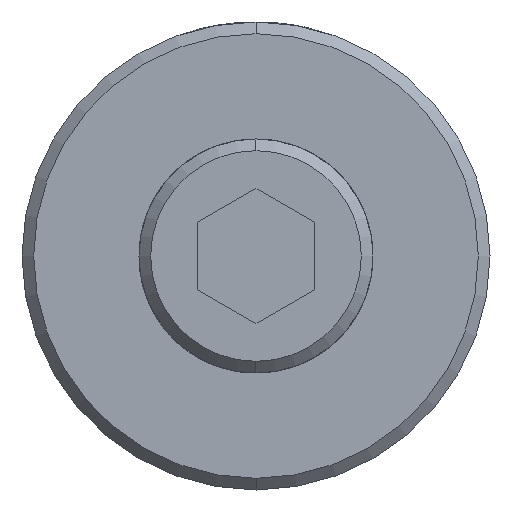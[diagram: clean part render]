
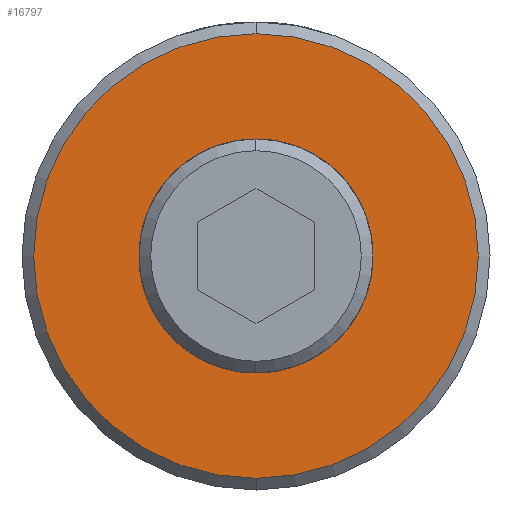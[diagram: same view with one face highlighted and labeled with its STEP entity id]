
A CAD part, left-side view. The second image highlights one B-rep face of the part: STEP entity #16797.
In plain terms, the highlighted planar face has unit normal (-1, 0, 0) as drawn and (0, 0, 1) by its records, which use the part's own axes.
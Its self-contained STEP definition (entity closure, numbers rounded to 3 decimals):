
#11956=CARTESIAN_POINT('',(0.,0.,0.));
#11957=DIRECTION('',(0.,0.,-1.));
#11958=DIRECTION('',(-1.,0.,0.));
#11959=AXIS2_PLACEMENT_3D('',#11956,#11957,#11958);
#11961=CARTESIAN_POINT('',(0.,0.,0.));
#11962=DIRECTION('',(0.,0.,-1.));
#11963=DIRECTION('',(1.,0.,0.));
#11964=AXIS2_PLACEMENT_3D('',#11961,#11962,#11963);
#11966=CARTESIAN_POINT('',(-0.998,-2.562,0.));
#11967=CARTESIAN_POINT('',(-1.332,-2.451,0.));
#11968=CARTESIAN_POINT('',(-1.91,-2.126,0.));
#11969=CARTESIAN_POINT('',(-2.57,-1.358,0.));
#11970=CARTESIAN_POINT('',(-2.906,-0.45,0.));
#11971=CARTESIAN_POINT('',(-2.943,0.39,0.));
#11972=CARTESIAN_POINT('',(-2.778,1.125,0.));
#11973=CARTESIAN_POINT('',(-2.574,1.538,0.));
#11974=CARTESIAN_POINT('',(-2.451,1.73,0.));
#11976=CARTESIAN_POINT('',(0.,0.,0.));
#11977=DIRECTION('',(0.,0.,-1.));
#11978=DIRECTION('',(0.882,-0.472,0.));
#11979=AXIS2_PLACEMENT_3D('',#11976,#11977,#11978);
#11981=CARTESIAN_POINT('',(0.737,2.908,0.));
#11982=CARTESIAN_POINT('',(0.915,2.854,0.));
#11983=CARTESIAN_POINT('',(1.254,2.716,0.));
#11984=CARTESIAN_POINT('',(1.722,2.415,0.));
#11985=CARTESIAN_POINT('',(2.13,2.027,0.));
#11986=CARTESIAN_POINT('',(2.463,1.56,0.));
#11987=CARTESIAN_POINT('',(2.707,1.008,0.));
#11988=CARTESIAN_POINT('',(2.832,0.397,0.));
#11989=CARTESIAN_POINT('',(2.82,-0.213,0.));
#11990=CARTESIAN_POINT('',(2.688,-0.78,0.));
#11991=CARTESIAN_POINT('',(2.525,-1.13,0.));
#11992=CARTESIAN_POINT('',(2.425,-1.297,0.));
#11994=CARTESIAN_POINT('',(-2.451,1.73,0.));
#11995=CARTESIAN_POINT('',(-2.275,1.979,0.));
#11996=CARTESIAN_POINT('',(-1.867,2.405,0.));
#11997=CARTESIAN_POINT('',(-1.051,2.861,0.));
#11998=CARTESIAN_POINT('',(-0.153,3.04,0.));
#11999=CARTESIAN_POINT('',(0.439,2.984,0.));
#12000=CARTESIAN_POINT('',(0.737,2.908,0.));
#16468=CARTESIAN_POINT('',(-5.7,0.,0.));
#16469=CARTESIAN_POINT('',(5.7,0.,0.));
#16470=VERTEX_POINT('',#16468);
#16471=VERTEX_POINT('',#16469);
#16508=VERTEX_POINT('',#11966);
#16509=VERTEX_POINT('',#11974);
#16510=VERTEX_POINT('',#12000);
#16511=VERTEX_POINT('',#11992);
#16776=CARTESIAN_POINT('',(0.,0.,0.));
#16777=DIRECTION('',(0.,0.,1.));
#16778=DIRECTION('',(-1.,0.,0.));
#16779=AXIS2_PLACEMENT_3D('',#16776,#16777,#16778);
#16780=PLANE('',#16779);
#16782=ORIENTED_EDGE('',*,*,#16781,.T.);
#16784=ORIENTED_EDGE('',*,*,#16783,.T.);
#16785=EDGE_LOOP('',(#16782,#16784));
#16786=FACE_OUTER_BOUND('',#16785,.F.);
#16788=ORIENTED_EDGE('',*,*,#16787,.F.);
#16790=ORIENTED_EDGE('',*,*,#16789,.F.);
#16792=ORIENTED_EDGE('',*,*,#16791,.F.);
#16794=ORIENTED_EDGE('',*,*,#16793,.F.);
#16795=EDGE_LOOP('',(#16788,#16790,#16792,#16794));
#16796=FACE_BOUND('',#16795,.F.);
#16797=ADVANCED_FACE('',(#16786,#16796),#16780,.T.);
#11960=CIRCLE('',#11959,5.7);
#11965=CIRCLE('',#11964,5.7);
#11975=B_SPLINE_CURVE_WITH_KNOTS('',3,(#11966,#11967,#11968,#11969,#11970,
#11971,#11972,#11973,#11974),.UNSPECIFIED.,.F.,.F.,(4,1,1,1,1,1,4),(0.,
0.167,0.333,0.5,0.667,0.833,
1.),.UNSPECIFIED.);
#11980=CIRCLE('',#11979,2.75);
#11993=B_SPLINE_CURVE_WITH_KNOTS('',3,(#11981,#11982,#11983,#11984,#11985,
#11986,#11987,#11988,#11989,#11990,#11991,#11992),.UNSPECIFIED.,.F.,.F.,(4,1,1,
1,1,1,1,1,1,4),(0.,0.111,0.222,0.333,
0.444,0.556,0.667,0.778,
0.889,1.),.UNSPECIFIED.);
#12001=B_SPLINE_CURVE_WITH_KNOTS('',3,(#11994,#11995,#11996,#11997,#11998,
#11999,#12000),.UNSPECIFIED.,.F.,.F.,(4,1,1,1,4),(0.,0.25,0.5,0.75,
1.),.UNSPECIFIED.);
#16781=EDGE_CURVE('',#16470,#16471,#11960,.T.);
#16783=EDGE_CURVE('',#16471,#16470,#11965,.T.);
#16787=EDGE_CURVE('',#16508,#16509,#11975,.T.);
#16789=EDGE_CURVE('',#16511,#16508,#11980,.T.);
#16791=EDGE_CURVE('',#16510,#16511,#11993,.T.);
#16793=EDGE_CURVE('',#16509,#16510,#12001,.T.);
